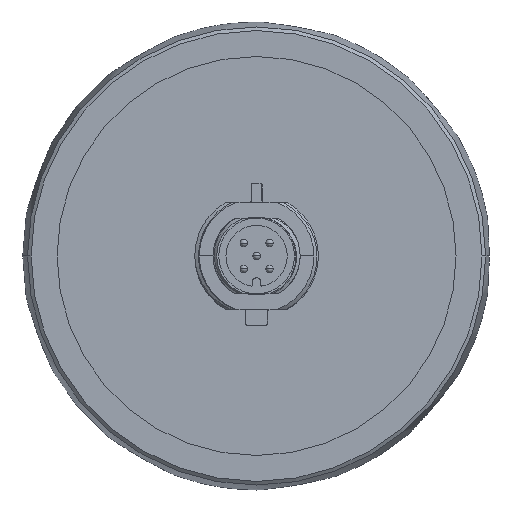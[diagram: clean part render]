
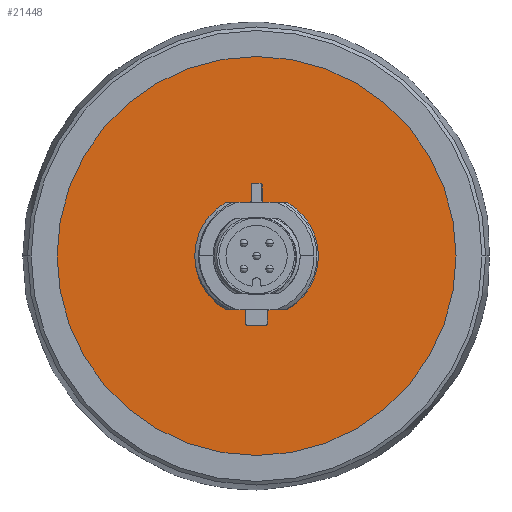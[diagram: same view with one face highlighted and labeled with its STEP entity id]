
A CAD part, front view. The second image highlights one B-rep face of the part: STEP entity #21448.
In plain terms, the highlighted planar face has unit normal (0, -1, 0).
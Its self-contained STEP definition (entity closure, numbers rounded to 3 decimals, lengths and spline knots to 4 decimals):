
#5480=CARTESIAN_POINT('',(0.,-0.364,0.));
#5481=DIRECTION('',(0.,1.,0.));
#5482=DIRECTION('',(1.,0.,0.));
#5483=AXIS2_PLACEMENT_3D('',#5480,#5481,#5482);
#5485=CARTESIAN_POINT('',(0.,-0.364,0.));
#5486=DIRECTION('',(0.,1.,0.));
#5487=DIRECTION('',(-1.,0.,0.));
#5488=AXIS2_PLACEMENT_3D('',#5485,#5486,#5487);
#5490=DIRECTION('',(1.,0.,0.017));
#5491=VECTOR('',#5490,0.0994);
#5492=CARTESIAN_POINT('',(0.0694,-0.364,-0.2888));
#5493=LINE('',#5492,#5491);
#5494=CARTESIAN_POINT('',(0.,-0.364,0.));
#5495=DIRECTION('',(0.,-1.,0.));
#5496=DIRECTION('',(0.507,0.,-0.862));
#5497=AXIS2_PLACEMENT_3D('',#5494,#5495,#5496);
#5499=DIRECTION('',(-1.,0.,0.017));
#5500=VECTOR('',#5499,0.1294);
#5501=CARTESIAN_POINT('',(0.1688,-0.364,0.2871));
#5502=LINE('',#5501,#5500);
#5503=CARTESIAN_POINT('',(0.0296,-0.364,0.2993));
#5504=CARTESIAN_POINT('',(0.0296,-0.364,0.296));
#5505=CARTESIAN_POINT('',(0.0321,-0.364,0.2919));
#5506=CARTESIAN_POINT('',(0.0362,-0.364,0.2894));
#5507=CARTESIAN_POINT('',(0.0394,-0.364,0.2893));
#5509=CARTESIAN_POINT('',(0.0296,-0.364,0.383));
#5510=CARTESIAN_POINT('',(0.0296,-0.364,0.3863));
#5511=CARTESIAN_POINT('',(0.0271,-0.364,0.3904));
#5512=CARTESIAN_POINT('',(0.0229,-0.364,0.393));
#5513=CARTESIAN_POINT('',(0.0196,-0.364,0.393));
#5515=CARTESIAN_POINT('',(-0.0196,-0.364,0.393));
#5516=CARTESIAN_POINT('',(-0.0229,-0.364,0.393));
#5517=CARTESIAN_POINT('',(-0.0271,-0.364,0.3904));
#5518=CARTESIAN_POINT('',(-0.0296,-0.364,0.3863));
#5519=CARTESIAN_POINT('',(-0.0296,-0.364,0.383));
#5521=CARTESIAN_POINT('',(-0.0296,-0.364,0.2993));
#5522=CARTESIAN_POINT('',(-0.0296,-0.364,0.296));
#5523=CARTESIAN_POINT('',(-0.0321,-0.364,0.2919));
#5524=CARTESIAN_POINT('',(-0.0362,-0.364,0.2894));
#5525=CARTESIAN_POINT('',(-0.0394,-0.364,0.2893));
#5527=DIRECTION('',(-1.,0.,-0.017));
#5528=VECTOR('',#5527,0.1294);
#5529=CARTESIAN_POINT('',(-0.0394,-0.364,0.2893));
#5530=LINE('',#5529,#5528);
#5531=CARTESIAN_POINT('',(0.,-0.364,0.));
#5532=DIRECTION('',(0.,-1.,0.));
#5533=DIRECTION('',(-0.507,0.,0.862));
#5534=AXIS2_PLACEMENT_3D('',#5531,#5532,#5533);
#5536=DIRECTION('',(1.,0.,-0.017));
#5537=VECTOR('',#5536,0.0994);
#5538=CARTESIAN_POINT('',(-0.1688,-0.364,-0.2871));
#5539=LINE('',#5538,#5537);
#5540=CARTESIAN_POINT('',(-0.0596,-0.364,-0.363));
#5541=CARTESIAN_POINT('',(-0.0596,-0.364,-0.3663));
#5542=CARTESIAN_POINT('',(-0.0571,-0.364,-0.3704));
#5543=CARTESIAN_POINT('',(-0.0529,-0.364,-0.373));
#5544=CARTESIAN_POINT('',(-0.0496,-0.364,-0.373));
#5546=CARTESIAN_POINT('',(0.0496,-0.364,-0.373));
#5547=CARTESIAN_POINT('',(0.0529,-0.364,-0.373));
#5548=CARTESIAN_POINT('',(0.0571,-0.364,-0.3704));
#5549=CARTESIAN_POINT('',(0.0596,-0.364,-0.3663));
#5550=CARTESIAN_POINT('',(0.0596,-0.364,-0.363));
#12261=DIRECTION('',(0.,0.,-1.));
#12262=VECTOR('',#12261,0.0642);
#12263=CARTESIAN_POINT('',(0.0596,-0.364,-0.2988));
#12264=LINE('',#12263,#12262);
#12285=DIRECTION('',(0.,0.,1.));
#12286=VECTOR('',#12285,0.0642);
#12287=CARTESIAN_POINT('',(-0.0596,-0.364,-0.363));
#12288=LINE('',#12287,#12286);
#12307=CARTESIAN_POINT('',(-0.0694,-0.364,-0.2888));
#12308=CARTESIAN_POINT('',(-0.0662,-0.364,-0.2888));
#12309=CARTESIAN_POINT('',(-0.0621,-0.364,-0.2914));
#12310=CARTESIAN_POINT('',(-0.0596,-0.364,-0.2955));
#12311=CARTESIAN_POINT('',(-0.0596,-0.364,-0.2988));
#12323=DIRECTION('',(-1.,0.,0.));
#12324=VECTOR('',#12323,0.0992);
#12325=CARTESIAN_POINT('',(0.0496,-0.364,-0.373));
#12326=LINE('',#12325,#12324);
#12345=CARTESIAN_POINT('',(0.0694,-0.364,-0.2888));
#12346=CARTESIAN_POINT('',(0.0662,-0.364,-0.2888));
#12347=CARTESIAN_POINT('',(0.0621,-0.364,-0.2914));
#12348=CARTESIAN_POINT('',(0.0596,-0.364,-0.2955));
#12349=CARTESIAN_POINT('',(0.0596,-0.364,-0.2988));
#12424=DIRECTION('',(0.,0.,-1.));
#12425=VECTOR('',#12424,0.0836);
#12426=CARTESIAN_POINT('',(0.0296,-0.364,0.383));
#12427=LINE('',#12426,#12425);
#12450=DIRECTION('',(1.,0.,0.));
#12451=VECTOR('',#12450,0.0392);
#12452=CARTESIAN_POINT('',(-0.0196,-0.364,0.393));
#12453=LINE('',#12452,#12451);
#12460=DIRECTION('',(0.,0.,1.));
#12461=VECTOR('',#12460,0.0836);
#12462=CARTESIAN_POINT('',(-0.0296,-0.364,0.2993));
#12463=LINE('',#12462,#12461);
#13006=CARTESIAN_POINT('',(1.075,-0.364,0.));
#13007=VERTEX_POINT('',#13006);
#13008=CARTESIAN_POINT('',(-1.075,-0.364,0.));
#13009=VERTEX_POINT('',#13008);
#13010=CARTESIAN_POINT('',(-0.0196,-0.364,0.393));
#13011=CARTESIAN_POINT('',(0.0196,-0.364,0.393));
#13012=VERTEX_POINT('',#13010);
#13013=VERTEX_POINT('',#13011);
#13014=VERTEX_POINT('',#5519);
#13015=VERTEX_POINT('',#5540);
#13016=VERTEX_POINT('',#5544);
#13017=CARTESIAN_POINT('',(0.0496,-0.364,-0.373));
#13018=VERTEX_POINT('',#13017);
#13019=VERTEX_POINT('',#5550);
#13020=VERTEX_POINT('',#5509);
#13028=CARTESIAN_POINT('',(0.1688,-0.364,0.2871));
#13030=VERTEX_POINT('',#13028);
#13064=CARTESIAN_POINT('',(0.1688,-0.364,-0.2871));
#13066=VERTEX_POINT('',#13064);
#13108=CARTESIAN_POINT('',(-0.1688,-0.364,-0.2871));
#13110=VERTEX_POINT('',#13108);
#13147=CARTESIAN_POINT('',(-0.1688,-0.364,0.2871));
#13149=VERTEX_POINT('',#13147);
#14145=CARTESIAN_POINT('',(0.0394,-0.364,0.2893));
#14147=VERTEX_POINT('',#14145);
#14152=CARTESIAN_POINT('',(-0.0394,-0.364,0.2893));
#14154=VERTEX_POINT('',#14152);
#14155=VERTEX_POINT('',#5503);
#14156=VERTEX_POINT('',#5521);
#14205=CARTESIAN_POINT('',(0.0694,-0.364,-0.2888));
#14207=VERTEX_POINT('',#14205);
#14209=VERTEX_POINT('',#12349);
#14211=CARTESIAN_POINT('',(-0.0694,-0.364,-0.2888));
#14213=VERTEX_POINT('',#14211);
#14214=VERTEX_POINT('',#12311);
#21400=CARTESIAN_POINT('',(0.,-0.364,0.));
#21401=DIRECTION('',(0.,1.,0.));
#21402=DIRECTION('',(1.,0.,0.));
#21403=AXIS2_PLACEMENT_3D('',#21400,#21401,#21402);
#21404=PLANE('',#21403);
#21406=ORIENTED_EDGE('',*,*,#21405,.T.);
#21408=ORIENTED_EDGE('',*,*,#21407,.T.);
#21409=EDGE_LOOP('',(#21406,#21408));
#21410=FACE_OUTER_BOUND('',#21409,.F.);
#21412=ORIENTED_EDGE('',*,*,#21411,.F.);
#21414=ORIENTED_EDGE('',*,*,#21413,.F.);
#21415=ORIENTED_EDGE('',*,*,#19327,.T.);
#21417=ORIENTED_EDGE('',*,*,#21416,.T.);
#21418=ORIENTED_EDGE('',*,*,#19661,.T.);
#21420=ORIENTED_EDGE('',*,*,#21419,.F.);
#21422=ORIENTED_EDGE('',*,*,#21421,.F.);
#21424=ORIENTED_EDGE('',*,*,#21423,.T.);
#21426=ORIENTED_EDGE('',*,*,#21425,.F.);
#21428=ORIENTED_EDGE('',*,*,#21427,.T.);
#21430=ORIENTED_EDGE('',*,*,#21429,.F.);
#21432=ORIENTED_EDGE('',*,*,#21431,.T.);
#21433=ORIENTED_EDGE('',*,*,#19802,.T.);
#21434=ORIENTED_EDGE('',*,*,#21392,.T.);
#21435=ORIENTED_EDGE('',*,*,#19163,.T.);
#21437=ORIENTED_EDGE('',*,*,#21436,.T.);
#21439=ORIENTED_EDGE('',*,*,#21438,.F.);
#21441=ORIENTED_EDGE('',*,*,#21440,.T.);
#21443=ORIENTED_EDGE('',*,*,#21442,.F.);
#21445=ORIENTED_EDGE('',*,*,#21444,.T.);
#21446=EDGE_LOOP('',(#21412,#21414,#21415,#21417,#21418,#21420,#21422,#21424,
#21426,#21428,#21430,#21432,#21433,#21434,#21435,#21437,#21439,#21441,#21443,
#21445));
#21447=FACE_BOUND('',#21446,.F.);
#21448=ADVANCED_FACE('',(#21410,#21447),#21404,.F.);
#5484=CIRCLE('',#5483,1.075);
#5489=CIRCLE('',#5488,1.075);
#5498=CIRCLE('',#5497,0.333);
#5508=B_SPLINE_CURVE_WITH_KNOTS('',3,(#5503,#5504,#5505,#5506,#5507),
.UNSPECIFIED.,.F.,.F.,(4,1,4),(0.,0.5,1.),.UNSPECIFIED.);
#5514=B_SPLINE_CURVE_WITH_KNOTS('',3,(#5509,#5510,#5511,#5512,#5513),
.UNSPECIFIED.,.F.,.F.,(4,1,4),(0.,0.5,1.),.UNSPECIFIED.);
#5520=B_SPLINE_CURVE_WITH_KNOTS('',3,(#5515,#5516,#5517,#5518,#5519),
.UNSPECIFIED.,.F.,.F.,(4,1,4),(0.,0.5,1.),.UNSPECIFIED.);
#5526=B_SPLINE_CURVE_WITH_KNOTS('',3,(#5521,#5522,#5523,#5524,#5525),
.UNSPECIFIED.,.F.,.F.,(4,1,4),(0.,0.5,1.),.UNSPECIFIED.);
#5535=CIRCLE('',#5534,0.333);
#5545=B_SPLINE_CURVE_WITH_KNOTS('',3,(#5540,#5541,#5542,#5543,#5544),
.UNSPECIFIED.,.F.,.F.,(4,1,4),(0.,0.5,1.),.UNSPECIFIED.);
#5551=B_SPLINE_CURVE_WITH_KNOTS('',3,(#5546,#5547,#5548,#5549,#5550),
.UNSPECIFIED.,.F.,.F.,(4,1,4),(0.,0.5,1.),.UNSPECIFIED.);
#12312=B_SPLINE_CURVE_WITH_KNOTS('',3,(#12307,#12308,#12309,#12310,#12311),
.UNSPECIFIED.,.F.,.F.,(4,1,4),(0.,0.5,1.),.UNSPECIFIED.);
#12350=B_SPLINE_CURVE_WITH_KNOTS('',3,(#12345,#12346,#12347,#12348,#12349),
.UNSPECIFIED.,.F.,.F.,(4,1,4),(0.,0.5,1.),.UNSPECIFIED.);
#19163=EDGE_CURVE('',#13110,#14213,#5539,.T.);
#19327=EDGE_CURVE('',#14207,#13066,#5493,.T.);
#19661=EDGE_CURVE('',#13030,#14147,#5502,.T.);
#19802=EDGE_CURVE('',#14154,#13149,#5530,.T.);
#21392=EDGE_CURVE('',#13149,#13110,#5535,.T.);
#21405=EDGE_CURVE('',#13007,#13009,#5484,.T.);
#21407=EDGE_CURVE('',#13009,#13007,#5489,.T.);
#21411=EDGE_CURVE('',#14209,#13019,#12264,.T.);
#21413=EDGE_CURVE('',#14207,#14209,#12350,.T.);
#21416=EDGE_CURVE('',#13066,#13030,#5498,.T.);
#21419=EDGE_CURVE('',#14155,#14147,#5508,.T.);
#21421=EDGE_CURVE('',#13020,#14155,#12427,.T.);
#21423=EDGE_CURVE('',#13020,#13013,#5514,.T.);
#21425=EDGE_CURVE('',#13012,#13013,#12453,.T.);
#21427=EDGE_CURVE('',#13012,#13014,#5520,.T.);
#21429=EDGE_CURVE('',#14156,#13014,#12463,.T.);
#21431=EDGE_CURVE('',#14156,#14154,#5526,.T.);
#21436=EDGE_CURVE('',#14213,#14214,#12312,.T.);
#21438=EDGE_CURVE('',#13015,#14214,#12288,.T.);
#21440=EDGE_CURVE('',#13015,#13016,#5545,.T.);
#21442=EDGE_CURVE('',#13018,#13016,#12326,.T.);
#21444=EDGE_CURVE('',#13018,#13019,#5551,.T.);
